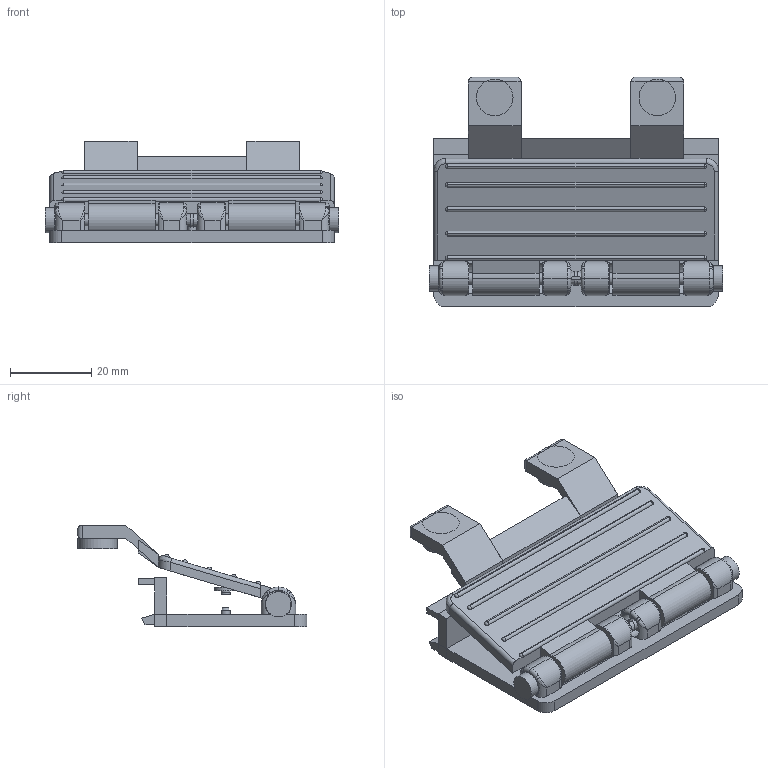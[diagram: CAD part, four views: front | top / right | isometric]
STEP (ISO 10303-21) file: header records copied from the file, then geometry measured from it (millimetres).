
FILE_DESCRIPTION(('FreeCAD Model'),'2;1');
FILE_NAME('Open CASCADE Shape Model','2026-10-18T19:16:07',('FreeCAD'),( 'FreeCAD'),'Open CASCADE STEP processor 7.9','FreeCAD','Unknown');
FILE_SCHEMA(('AUTOMOTIVE_DESIGN { 1 0 10303 214 1 1 1 1 }'));
Length unit declared in the file: millimetre
Products named in the file (1): Open CASCADE STEP translator 7.9 11
Bounding box: 72.3 x 56.5 x 24.9 mm (x, y, z)
Volume: 21370.6 mm3; surface area: 18518.9 mm2
Topology: 6 solids, 6 shells, 340 faces, 858 edges, 524 vertices
Faces by surface type: plane 161, cylinder 101, bspline 34, sphere 17, torus 16, cone 11
Full cylindrical faces by diameter (mm): 2.2 x9, 2.9 x2, 3.2 x6, 4 x2, 4.2 x2, 5.4 x3, 6.2 x4, 6.5 x2, 8 x4, 9.6 x2
Entity records: 16531 total; most frequent: CARTESIAN_POINT 8707, ORIENTED_EDGE 1650, DIRECTION 1648, EDGE_CURVE 825, AXIS2_PLACEMENT_3D 638, VERTEX_POINT 524, FACE_BOUND 379, EDGE_LOOP 379
